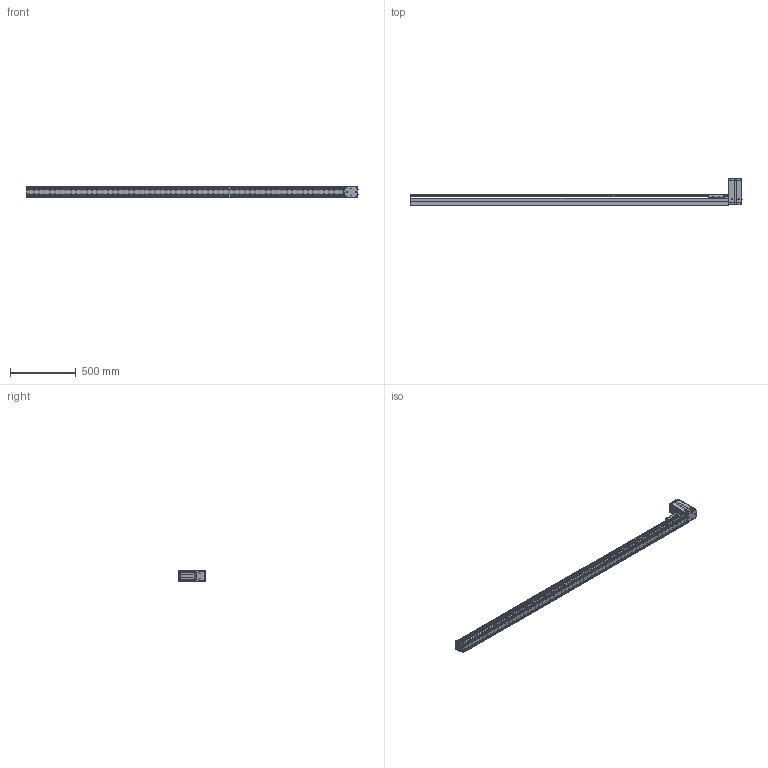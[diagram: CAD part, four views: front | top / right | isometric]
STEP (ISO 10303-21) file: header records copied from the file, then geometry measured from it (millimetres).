
FILE_DESCRIPTION((''),'2;1');
FILE_NAME('BE10_-BT-M_N-N0_IGS_PRT','2017-06-18T',(' '),(''),'PRO/ENGINEER BY PARAMETRIC TECHNOLOGY CORPORATION, 2015030','PRO/ENGINEER BY PARAMETRIC TECHNOLOGY CORPORATION, 2015030','');
FILE_SCHEMA(('CONFIG_CONTROL_DESIGN'));
Products named in the file (1): BE10_-BT-M_N-N0_IGS_PRT
Bounding box: 2520.8 x 204.72 x 78 mm (x, y, z)
Volume: 3238718.2 mm3; surface area: 2279071.2 mm2
Topology: 5 solids, 199 shells, 2458 faces, 6750 edges, 4509 vertices
Faces by surface type: cylinder 1212, plane 1083, cone 107, sphere 28, torus 25, bspline 3
Entity records: 80603 total; most frequent: CARTESIAN_POINT 16511, DIRECTION 13690, ORIENTED_EDGE 12604, EDGE_CURVE 6680, AXIS2_PLACEMENT_3D 5071, VERTEX_POINT 4505, VECTOR 3548, LINE 3548
